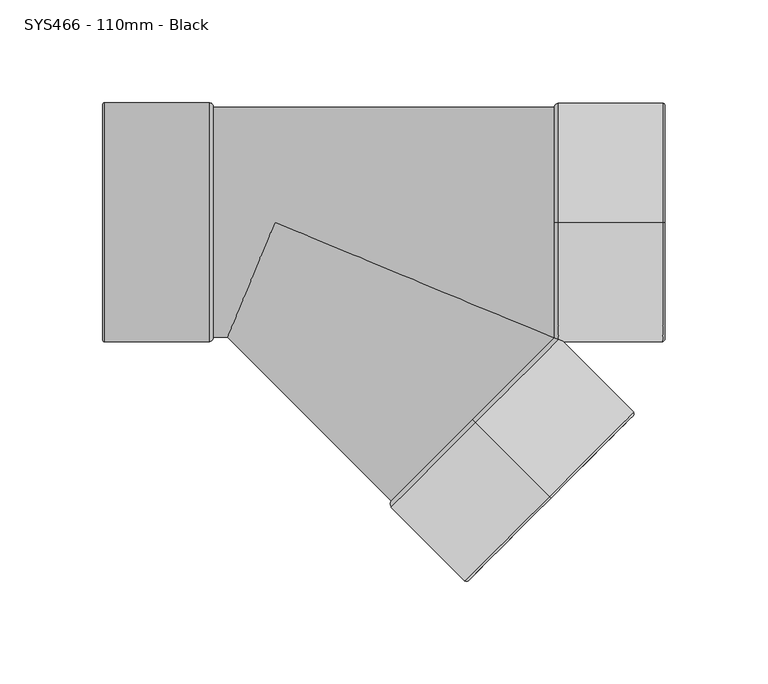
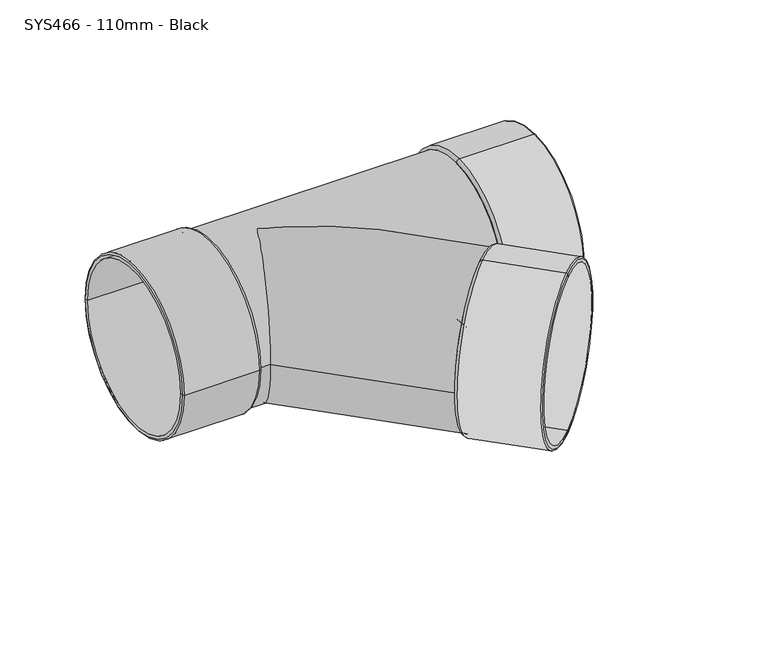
"""IFC4 building model written with IfcOpenShell, lengths in millimetres: pipe fitting geometry, MarleyPlumbingAndDrainage_PipeFitting_EqualBranch45 : SYS466 - 110mm - Black."""

from ifc_helpers import new_model, si_unit, point, frame, origin, place, context, project, spatial, polyline, circle_curve, ellipse_curve, trimmed, source, transform, mapped, element, save
from ifc_brep_helpers import plane_surface, cylinder_surface, revolved_surface, advanced_brep


def sys466_110mm_black_27348bd2(model_context):
    return source(origin(), model_context, "Body", "AdvancedBrep", [
        advanced_brep(
        [(119.5249066, -134.3502884, -55.2), (119.5249066, -134.3502884, 55.2), (119.5249066, -134.3502884, 57.1626013), (119.5249066, -134.3502884, -57.1626013), (82.8967753, -97.7221572, -55.2), (82.8967753, -97.7221572, 55.2), (82.8967753, -97.7221572, 0.0), (81.3411404, -96.1665222, -56.0), (81.3411404, -96.1665222, 56.0), (81.3411404, -96.1665222, 0.0), (118.791355, -133.6167368, -58.2), (118.791355, -133.6167368, 58.2), (82.8967753, -97.7221572, 58.2), (82.8967753, -97.7221572, -58.2)],
        [
            (0, 1, circle_curve(frame((119.5249066, -134.3502884, 0.0), z_axis=(-0.7071067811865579, 0.7071067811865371, 0.0), x_axis=(0.0, 0.0, 1.0)), 55.2)),
            (1, 2),
            (2, 3, circle_curve(frame((119.5249066, -134.3502884, 0.0), z_axis=(0.7071067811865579, -0.7071067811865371, 0.0), x_axis=(0.0, 0.0, 1.0)), 57.1626013)),
            (3, 0),
            (1, 0, circle_curve(frame((119.5249066, -134.3502884, 0.0), z_axis=(-0.7071067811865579, 0.7071067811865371, 0.0), x_axis=(0.0, 0.0, 1.0)), 55.2)),
            (3, 2, circle_curve(frame((119.5249066, -134.3502884, 0.0), z_axis=(0.7071067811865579, -0.7071067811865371, 0.0), x_axis=(0.0, 0.0, 1.0)), 57.1626013)),
            (4, 5, circle_curve(frame((82.8967753, -97.7221572, 0.0), z_axis=(-0.7071067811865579, 0.7071067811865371, 0.0), x_axis=(0.0, 0.0, 1.0)), 55.2)),
            (5, 1),
            (0, 4),
            (5, 4, circle_curve(frame((82.8967753, -97.7221572, 0.0), z_axis=(-0.7071067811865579, 0.7071067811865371, 0.0), x_axis=(0.0, 0.0, 1.0)), 55.2)),
            (6, 5),
            (4, 6),
            (7, 8, circle_curve(frame((81.3411404, -96.1665222, 0.0), z_axis=(-0.7071067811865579, 0.7071067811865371, 0.0), x_axis=(0.0, 0.0, 1.0)), 56.0)),
            (8, 9),
            (9, 7),
            (8, 7, circle_curve(frame((81.3411404, -96.1665222, 0.0), z_axis=(-0.7071067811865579, 0.7071067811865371, 0.0), x_axis=(0.0, 0.0, 1.0)), 56.0)),
            (10, 11, circle_curve(frame((118.791355, -133.6167368, 0.0), z_axis=(-0.7071067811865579, 0.7071067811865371, 0.0), x_axis=(0.0, 0.0, 1.0)), 58.2)),
            (11, 12),
            (12, 13, circle_curve(frame((82.8967753, -97.7221572, 0.0), z_axis=(0.7071067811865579, -0.7071067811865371, 0.0), x_axis=(0.0, 0.0, 1.0)), 58.2)),
            (13, 10),
            (11, 10, circle_curve(frame((118.791355, -133.6167368, 0.0), z_axis=(-0.7071067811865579, 0.7071067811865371, 0.0), x_axis=(0.0, 0.0, 1.0)), 58.2)),
            (13, 12, circle_curve(frame((82.8967753, -97.7221572, 0.0), z_axis=(0.7071067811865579, -0.7071067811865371, 0.0), x_axis=(0.0, 0.0, 1.0)), 58.2)),
            (2, 11, circle_curve(frame((118.791355, -133.6167368, 57.1626013), z_axis=(-0.7071067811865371, -0.7071067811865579, 0.0), x_axis=(0.0, 0.0, 1.0)), 1.0373987)),
            (10, 3, circle_curve(frame((118.791355, -133.6167368, -57.1626013), z_axis=(-0.7071067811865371, -0.7071067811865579, 0.0), x_axis=(0.0, 0.0, -1.0)), 1.0373987)),
            (12, 8, circle_curve(frame((82.8967753, -97.7221572, 56.0), z_axis=(-0.7071067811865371, -0.7071067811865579, 0.0), x_axis=(0.0, 0.0, 1.0)), 2.2)),
            (7, 13, circle_curve(frame((82.8967753, -97.7221572, -56.0), z_axis=(-0.7071067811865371, -0.7071067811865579, 0.0), x_axis=(0.0, 0.0, -1.0)), 2.2)),
        ],
        [
            plane_surface(frame((119.5249066, -134.3502884, 0.0), z_axis=(0.7071067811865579, -0.7071067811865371, 0.0), x_axis=(0.0, 0.0, 1.0))),
            revolved_surface(polyline([(119.52490659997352, -134.3502884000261, 55.2), (82.89677534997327, -97.72215715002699, 55.2)]), (1916.2925792, -1931.117961, 0.0), (0.7071067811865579, -0.7071067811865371, 0.0)),
            plane_surface(frame((82.8967753, -97.7221572, 0.0), z_axis=(0.7071067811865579, -0.7071067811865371, 0.0), x_axis=(0.0, 0.0, 1.0))),
            plane_surface(frame((81.3411404, -96.1665222, 0.0), z_axis=(-0.7071067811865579, 0.7071067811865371, 0.0), x_axis=(0.0, 0.0, 1.0))),
            cylinder_surface(frame((1916.2925792, -1931.117961, 0.0), z_axis=(0.7071067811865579, -0.7071067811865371, 0.0), x_axis=(0.0, 0.0, 1.0)), 58.2),
            revolved_surface(trimmed(ellipse_curve(frame((118.791355, -133.6167368, 57.1626013), z_axis=(0.7071067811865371, 0.7071067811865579, 0.0), x_axis=(0.0, 0.0, 1.0)), 1.0373987, 1.0373987), [point((118.791355, -133.6167368, 58.2))], [point((119.5249066, -134.3502884, 57.1626013))], True, "CARTESIAN"), (1916.2925792, -1931.117961, 0.0), (0.7071067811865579, -0.7071067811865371, 0.0)),
            revolved_surface(trimmed(ellipse_curve(frame((82.8967753, -97.7221572, 56.0), z_axis=(0.7071067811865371, 0.7071067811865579, 0.0), x_axis=(0.0, 0.0, 1.0)), 2.2, 2.2), [point((81.3411404, -96.1665222, 56.0))], [point((82.8967753, -97.7221572, 58.2))], True, "CARTESIAN"), (1916.2925792, -1931.117961, 0.0), (0.7071067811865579, -0.7071067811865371, 0.0)),
        ],
        [
            (0, [[1, 2, 3, 4]]),
            (0, [[5, -4, 6, -2]]),
            (1, [[7, 8, -1, 9]]),
            (1, [[10, -9, -5, -8]]),
            (2, [[11, -7, 12]]),
            (2, [[-12, -10, -11]]),
            (3, [[13, 14, 15]]),
            (3, [[16, -15, -14]]),
            (4, [[17, 18, 19, 20]]),
            (4, [[21, -20, 22, -18]]),
            (5, [[-3, 23, -17, 24]]),
            (5, [[-6, -24, -21, -23]]),
            (6, [[-19, 25, -13, 26]]),
            (6, [[-22, -26, -16, -25]]),
        ],
    ),
        advanced_brep(
        [(175.1746182, 0.0, 55.2), (175.1746182, 0.0, -55.2), (175.1746182, 0.0, -57.1626013), (175.1746182, 0.0, 57.1626013), (123.3746182, 0.0, 55.2), (123.3746182, 0.0, -55.2), (123.3746182, 0.0, 0.0), (121.1746182, 0.0, 56.0), (121.1746182, 0.0, -56.0), (121.1746182, 0.0, 0.0), (174.1372195, 0.0, 58.2), (174.1372195, 0.0, -58.2), (123.3746182, 0.0, -58.2), (123.3746182, 0.0, 58.2)],
        [
            (0, 1, circle_curve(frame((175.1746182, 0.0, 0.0), z_axis=(-1.0, 0.0, 0.0), x_axis=(0.0, 0.0, -1.0)), 55.2)),
            (1, 2),
            (2, 3, circle_curve(frame((175.1746182, 0.0, 0.0), z_axis=(1.0, 0.0, 0.0), x_axis=(0.0, 0.0, -1.0)), 57.1626013)),
            (3, 0),
            (1, 0, circle_curve(frame((175.1746182, 0.0, 0.0), z_axis=(-1.0, 0.0, 0.0), x_axis=(0.0, 0.0, -1.0)), 55.2)),
            (3, 2, circle_curve(frame((175.1746182, 0.0, 0.0), z_axis=(1.0, 0.0, 0.0), x_axis=(0.0, 0.0, -1.0)), 57.1626013)),
            (4, 5, circle_curve(frame((123.3746182, 0.0, 0.0), z_axis=(-1.0, 0.0, 0.0), x_axis=(0.0, 0.0, -1.0)), 55.2)),
            (5, 1),
            (0, 4),
            (5, 4, circle_curve(frame((123.3746182, 0.0, 0.0), z_axis=(-1.0, 0.0, 0.0), x_axis=(0.0, 0.0, -1.0)), 55.2)),
            (6, 5),
            (4, 6),
            (7, 8, circle_curve(frame((121.1746182, 0.0, 0.0), z_axis=(-1.0, 0.0, 0.0), x_axis=(0.0, 0.0, -1.0)), 56.0)),
            (8, 9),
            (9, 7),
            (8, 7, circle_curve(frame((121.1746182, 0.0, 0.0), z_axis=(-1.0, 0.0, 0.0), x_axis=(0.0, 0.0, -1.0)), 56.0)),
            (10, 11, circle_curve(frame((174.1372195, 0.0, 0.0), z_axis=(-1.0, 0.0, 0.0), x_axis=(0.0, 0.0, -1.0)), 58.2)),
            (11, 12),
            (12, 13, circle_curve(frame((123.3746182, 0.0, 0.0), z_axis=(1.0, 0.0, 0.0), x_axis=(0.0, 0.0, -1.0)), 58.2)),
            (13, 10),
            (11, 10, circle_curve(frame((174.1372195, 0.0, 0.0), z_axis=(-1.0, 0.0, 0.0), x_axis=(0.0, 0.0, -1.0)), 58.2)),
            (13, 12, circle_curve(frame((123.3746182, 0.0, 0.0), z_axis=(1.0, 0.0, 0.0), x_axis=(0.0, 0.0, -1.0)), 58.2)),
            (2, 11, circle_curve(frame((174.1372195, 0.0, -57.1626013), z_axis=(0.0, 1.0, 0.0), x_axis=(0.0, 0.0, -1.0)), 1.0373987)),
            (10, 3, circle_curve(frame((174.1372195, 0.0, 57.1626013), z_axis=(0.0, 1.0, 0.0), x_axis=(0.0, 0.0, 1.0)), 1.0373987)),
            (12, 8, circle_curve(frame((123.3746182, 0.0, -56.0), z_axis=(0.0, 1.0, 0.0), x_axis=(0.0, 0.0, -1.0)), 2.2)),
            (7, 13, circle_curve(frame((123.3746182, 0.0, 56.0), z_axis=(0.0, 1.0, 0.0), x_axis=(0.0, 0.0, 1.0)), 2.2)),
        ],
        [
            plane_surface(frame((175.1746182, 0.0, 0.0), z_axis=(1.0, 0.0, 0.0), x_axis=(0.0, 0.0, -1.0))),
            revolved_surface(polyline([(175.17461820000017, 0.0, -55.2), (123.37461819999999, 0.0, -55.2)]), (2716.1878292, 0.0, 0.0), (1.0, 0.0, 0.0)),
            plane_surface(frame((123.3746182, 0.0, 0.0), z_axis=(1.0, 0.0, 0.0), x_axis=(0.0, 0.0, -1.0))),
            plane_surface(frame((121.1746182, 0.0, 0.0), z_axis=(-1.0, 0.0, 0.0), x_axis=(0.0, 0.0, -1.0))),
            cylinder_surface(frame((2716.1878292, 0.0, 0.0), z_axis=(1.0, 0.0, 0.0), x_axis=(0.0, 0.0, -1.0)), 58.2),
            revolved_surface(trimmed(ellipse_curve(frame((174.1372195, 0.0, -57.1626013), z_axis=(0.0, -1.0, 0.0), x_axis=(0.0, 0.0, -1.0)), 1.0373987, 1.0373987), [point((174.1372195, 0.0, -58.2))], [point((175.1746182, 0.0, -57.1626013))], True, "CARTESIAN"), (2716.1878292, 0.0, 0.0), (1.0, 0.0, 0.0)),
            revolved_surface(trimmed(ellipse_curve(frame((123.3746182, 0.0, -56.0), z_axis=(0.0, -1.0, 0.0), x_axis=(0.0, 0.0, -1.0)), 2.2, 2.2), [point((121.1746182, 0.0, -56.0))], [point((123.3746182, 0.0, -58.2))], True, "CARTESIAN"), (2716.1878292, 0.0, 0.0), (1.0, 0.0, 0.0)),
        ],
        [
            (0, [[1, 2, 3, 4]]),
            (0, [[5, -4, 6, -2]]),
            (1, [[7, 8, -1, 9]]),
            (1, [[10, -9, -5, -8]]),
            (2, [[11, -7, 12]]),
            (2, [[-12, -10, -11]]),
            (3, [[13, 14, 15]]),
            (3, [[16, -15, -14]]),
            (4, [[17, 18, 19, 20]]),
            (4, [[21, -20, 22, -18]]),
            (5, [[-3, 23, -17, 24]]),
            (5, [[-6, -24, -21, -23]]),
            (6, [[-19, 25, -13, 26]]),
            (6, [[-22, -26, -16, -25]]),
        ],
    ),
        advanced_brep(
        [(-98.8253818, -55.2, 0.0), (-98.8253818, 55.2, 0.0), (-98.8253818, 57.1626013, 0.0), (-98.8253818, -57.1626013, 0.0), (-47.0253818, -55.2, 0.0), (-47.0253818, 55.2, 0.0), (-47.0253818, 0.0, 0.0), (-44.8253818, -56.0, 0.0), (-44.8253818, 56.0, 0.0), (-44.8253818, 0.0, 0.0), (-97.7879832, -58.2, 0.0), (-97.7879832, 58.2, 0.0), (-47.0253818, 58.2, 0.0), (-47.0253818, -58.2, 0.0)],
        [
            (0, 1, circle_curve(frame((-98.8253818, 0.0, 0.0), z_axis=(1.0, 0.0, 0.0), x_axis=(0.0, 1.0, 0.0)), 55.2)),
            (1, 2),
            (2, 3, circle_curve(frame((-98.8253818, 0.0, 0.0), z_axis=(-1.0, 0.0, 0.0), x_axis=(0.0, 1.0, 0.0)), 57.1626013)),
            (3, 0),
            (1, 0, circle_curve(frame((-98.8253818, 0.0, 0.0), z_axis=(1.0, 0.0, 0.0), x_axis=(0.0, 1.0, 0.0)), 55.2)),
            (3, 2, circle_curve(frame((-98.8253818, 0.0, 0.0), z_axis=(-1.0, 0.0, 0.0), x_axis=(0.0, 1.0, 0.0)), 57.1626013)),
            (4, 5, circle_curve(frame((-47.0253818, 0.0, 0.0), z_axis=(1.0, 0.0, 0.0), x_axis=(0.0, 1.0, 0.0)), 55.2)),
            (5, 1),
            (0, 4),
            (5, 4, circle_curve(frame((-47.0253818, 0.0, 0.0), z_axis=(1.0, 0.0, 0.0), x_axis=(0.0, 1.0, 0.0)), 55.2)),
            (6, 5),
            (4, 6),
            (7, 8, circle_curve(frame((-44.8253818, 0.0, 0.0), z_axis=(1.0, 0.0, 0.0), x_axis=(0.0, 1.0, 0.0)), 56.0)),
            (8, 9),
            (9, 7),
            (8, 7, circle_curve(frame((-44.8253818, 0.0, 0.0), z_axis=(1.0, 0.0, 0.0), x_axis=(0.0, 1.0, 0.0)), 56.0)),
            (10, 11, circle_curve(frame((-97.7879832, 0.0, 0.0), z_axis=(1.0, 0.0, 0.0), x_axis=(0.0, 1.0, 0.0)), 58.2)),
            (11, 12),
            (12, 13, circle_curve(frame((-47.0253818, 0.0, 0.0), z_axis=(-1.0, 0.0, 0.0), x_axis=(0.0, 1.0, 0.0)), 58.2)),
            (13, 10),
            (11, 10, circle_curve(frame((-97.7879832, 0.0, 0.0), z_axis=(1.0, 0.0, 0.0), x_axis=(0.0, 1.0, 0.0)), 58.2)),
            (13, 12, circle_curve(frame((-47.0253818, 0.0, 0.0), z_axis=(-1.0, 0.0, 0.0), x_axis=(0.0, 1.0, 0.0)), 58.2)),
            (2, 11, circle_curve(frame((-97.7879832, 57.1626013, 0.0), z_axis=(0.0, 0.0, -1.0), x_axis=(0.0, 1.0, 0.0)), 1.0373987)),
            (10, 3, circle_curve(frame((-97.7879832, -57.1626013, 0.0), z_axis=(0.0, 0.0, -1.0), x_axis=(0.0, -1.0, 0.0)), 1.0373987)),
            (12, 8, circle_curve(frame((-47.0253818, 56.0, 0.0), z_axis=(0.0, 0.0, -1.0), x_axis=(0.0, 1.0, 0.0)), 2.2)),
            (7, 13, circle_curve(frame((-47.0253818, -56.0, 0.0), z_axis=(0.0, 0.0, -1.0), x_axis=(0.0, -1.0, 0.0)), 2.2)),
        ],
        [
            plane_surface(frame((-98.8253818, 0.0, 0.0), z_axis=(-1.0, 0.0, 0.0), x_axis=(0.0, 1.0, 0.0))),
            revolved_surface(polyline([(-98.82538179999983, 55.2, 0.0), (-47.025381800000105, 55.2, 0.0)]), (-2639.8385928, 0.0, 0.0), (-1.0, 0.0, 0.0)),
            plane_surface(frame((-47.0253818, 0.0, 0.0), z_axis=(-1.0, 0.0, 0.0), x_axis=(0.0, 1.0, 0.0))),
            plane_surface(frame((-44.8253818, 0.0, 0.0), z_axis=(1.0, 0.0, 0.0), x_axis=(0.0, 1.0, 0.0))),
            cylinder_surface(frame((-2639.8385928, 0.0, 0.0), z_axis=(-1.0, 0.0, 0.0), x_axis=(0.0, 1.0, 0.0)), 58.2),
            revolved_surface(trimmed(ellipse_curve(frame((-97.7879832, 57.1626013, 0.0), z_axis=(0.0, 0.0, 1.0), x_axis=(0.0, 1.0, 0.0)), 1.0373987, 1.0373987), [point((-97.7879832, 58.2, 0.0))], [point((-98.8253818, 57.1626013, 0.0))], True, "CARTESIAN"), (-2639.8385928, 0.0, 0.0), (-1.0, 0.0, 0.0)),
            revolved_surface(trimmed(ellipse_curve(frame((-47.0253818, 56.0, 0.0), z_axis=(0.0, 0.0, 1.0), x_axis=(0.0, 1.0, 0.0)), 2.2, 2.2), [point((-44.8253818, 56.0, 0.0))], [point((-47.0253818, 58.2, 0.0))], True, "CARTESIAN"), (-2639.8385928, 0.0, 0.0), (-1.0, 0.0, 0.0)),
        ],
        [
            (0, [[1, 2, 3, 4]]),
            (0, [[5, -4, 6, -2]]),
            (1, [[7, 8, -1, 9]]),
            (1, [[10, -9, -5, -8]]),
            (2, [[11, -7, 12]]),
            (2, [[-12, -10, -11]]),
            (3, [[13, 14, 15]]),
            (3, [[16, -15, -14]]),
            (4, [[17, 18, 19, 20]]),
            (4, [[21, -20, 22, -18]]),
            (5, [[-3, 23, -17, 24]]),
            (5, [[-6, -24, -21, -23]]),
            (6, [[-19, 25, -13, 26]]),
            (6, [[-22, -26, -16, -25]]),
        ],
    ),
        advanced_brep(
        [(121.1746182, -56.0, 0.0), (121.1746182, 56.0, 0.0), (121.1746182, 0.0, 0.0), (120.3705777, -56.0, 0.0), (-14.8253818, 0.0, -56.0), (-38.0213413, -56.0, 0.0), (-44.8253818, -56.0, 0.0), (-44.8253818, 56.0, 0.0), (-14.8253818, 0.0, 56.0), (41.7431607, -135.764502, 0.0), (120.9391202, -56.5685425, 0.0), (-44.8253818, -49.1959595, 0.0), (-44.8253818, -30.0, 0.0), (-44.8253818, 0.0, 0.0)],
        [
            (0, 1, circle_curve(frame((121.1746182, 0.0, 0.0), z_axis=(1.0, 0.0, 0.0), x_axis=(0.0, 1.0, 0.0)), 56.0)),
            (1, 2),
            (2, 0),
            (1, 0, circle_curve(frame((121.1746182, 0.0, 0.0), z_axis=(1.0, 0.0, 0.0), x_axis=(0.0, 1.0, 0.0)), 56.0)),
            (0, 3),
            (3, 4, ellipse_curve(frame((-14.8253818, 0.0, 0.0), z_axis=(0.3826834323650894, 0.923879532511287, 0.0), x_axis=(-0.923879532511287, 0.38268343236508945, 0.0)), 146.3350521, 56.0)),
            (4, 5, ellipse_curve(frame((-14.8253818, 0.0, 0.0), z_axis=(-0.923879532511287, 0.3826834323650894, 0.0), x_axis=(-0.3826834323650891, -0.9238795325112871, 0.0)), 60.6139632, 56.0)),
            (5, 6),
            (6, 7, circle_curve(frame((-44.8253818, 0.0, 0.0), z_axis=(1.0, 0.0, 0.0), x_axis=(0.0, 1.0, 0.0)), 56.0)),
            (7, 1),
            (7, 6, circle_curve(frame((-44.8253818, 0.0, 0.0), z_axis=(1.0, 0.0, 0.0), x_axis=(0.0, 1.0, 0.0)), 56.0)),
            (5, 8, ellipse_curve(frame((-14.8253818, 0.0, 0.0), z_axis=(-0.923879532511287, 0.3826834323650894, 0.0), x_axis=(-0.3826834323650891, -0.9238795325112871, 0.0)), 60.6139632, 56.0)),
            (8, 3, ellipse_curve(frame((-14.8253818, 0.0, 0.0), z_axis=(0.3826834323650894, 0.923879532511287, 0.0), x_axis=(-0.923879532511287, 0.38268343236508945, 0.0)), 146.3350521, 56.0)),
            (9, 10, circle_curve(frame((81.3411404, -96.1665222, 0.0), z_axis=(0.7071067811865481, -0.7071067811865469, 0.0), x_axis=(0.7071067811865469, 0.7071067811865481, 0.0)), 56.0)),
            (10, 9, circle_curve(frame((81.3411404, -96.1665222, 0.0), z_axis=(0.7071067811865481, -0.7071067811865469, 0.0), x_axis=(0.7071067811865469, 0.7071067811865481, 0.0)), 56.0)),
            (10, 3),
            (5, 9),
            (11, 12),
            (12, 13),
            (13, 7),
            (6, 11),
        ],
        [
            plane_surface(frame((121.1746182, 0.0, 0.0), z_axis=(1.0, 0.0, 0.0), x_axis=(0.0, 1.0, 0.0))),
            cylinder_surface(frame((2000.0, 0.0, 0.0), z_axis=(-1.0, 0.0, 0.0), x_axis=(0.0, 1.0, 0.0)), 56.0),
            plane_surface(frame((81.3411404, -96.1665222, 0.0), z_axis=(0.7071067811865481, -0.7071067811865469, 0.0), x_axis=(0.0, 0.0, 1.0))),
            cylinder_surface(frame((-14.8253818, 0.0, 0.0), z_axis=(-0.7071067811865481, 0.7071067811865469, 0.0), x_axis=(0.7071067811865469, 0.7071067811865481, 0.0)), 56.0),
            plane_surface(frame((-44.8253818, 0.0, 0.0), z_axis=(-1.0, 0.0, 0.0), x_axis=(0.0, 1.0, 0.0))),
        ],
        [
            (0, [[1, 2, 3]]),
            (0, [[-2, 4, -3]]),
            (1, [[-1, 5, 6, 7, 8, 9, 10]]),
            (1, [[-4, -10, 11, -8, 12, 13, -5]]),
            (2, [[14, 15]]),
            (3, [[-15, 16, -13, -12, 17]]),
            (3, [[-14, -17, -7, -6, -16]]),
            (4, [[18, 19, 20, -9, 21]]),
            (4, [[-18, -21, -11, -20, -19]]),
        ],
    ),
    ])


if __name__ == "__main__":
    model = new_model("IFC4")
    model_context = context("Model", 3, world=origin())
    ifc_project = project(units=[si_unit("LENGTHUNIT", "METRE", prefix="MILLI")], contexts=[model_context])
    site = spatial("IfcSite", under=ifc_project)
    building = spatial("IfcBuilding", under=site)
    placement = place(None, origin())
    sys466_110mm_black_shape = sys466_110mm_black_27348bd2(model_context)
    element("IfcPipeFitting", 1, ObjectType="MarleyPlumbingAndDrainage_PipeFitting_EqualBranch45 : SYS466 - 110mm - Black", at=placement, inside=building, context=model_context, shape_type="MappedRepresentation", body=[
        mapped(sys466_110mm_black_shape, transform((0.0, 0.0, 0.0), x_axis=(1.0, 0.0, 0.0), y_axis=(0.0, 1.0, 0.0), z_axis=(0.0, 0.0, 1.0))),
    ])
    save(model, "model.ifc")
